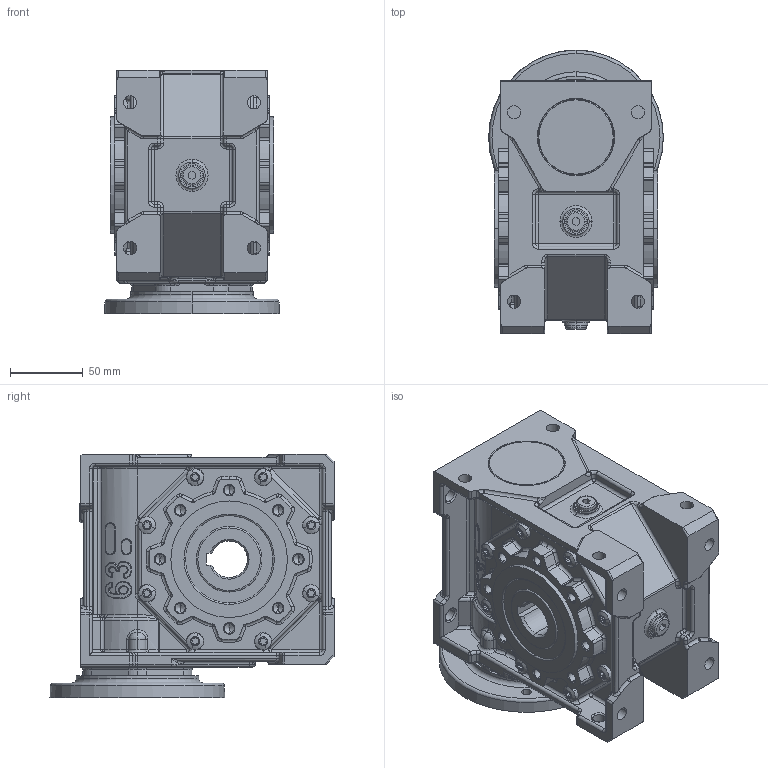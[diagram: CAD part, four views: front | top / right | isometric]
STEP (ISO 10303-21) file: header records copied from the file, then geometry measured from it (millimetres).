
FILE_DESCRIPTION (( 'STEP AP214' ), '1' );
FILE_NAME ('MKT63-FTRL-80-100.STEP', '2006-05-09T11:34:21', ( '' ), ( '' ), 'SwSTEP 2.0', 'SolidWorks 2004146', '' );
FILE_SCHEMA (( 'AUTOMOTIVE_DESIGN' ));
Length unit declared in the file: millimetre
Products named in the file (4): Skrin MKT63_MKT63 AP80; Pøíruba MRT80 kulatá _80-100-120; MKT63-FTRL-80-100; D6912_Šroub DIN 6912 - M6x25
Assembly tree (8 placements, depth 2):
  MKT63-FTRL-80-100
    D6912_Šroub DIN 6912 - M6x25  x6
    Skrin MKT63_MKT63 AP80
    Pøíruba MRT80 kulatá _80-100-120
Bounding box: 120 x 195 x 167 mm (x, y, z)
Volume: 2064265.2 mm3; surface area: 215014.2 mm2
Topology: 8 solids, 8 shells, 2027 faces, 4867 edges, 2834 vertices
Faces by surface type: cylinder 797, plane 368, torus 330, cone 220, bspline 182, sphere 130
Entity records: 181324 total; most frequent: CARTESIAN_POINT 134611, DIRECTION 9563, ORIENTED_EDGE 8824, EDGE_CURVE 4412, AXIS2_PLACEMENT_3D 4001, VERTEX_POINT 2659, CIRCLE 2330, EDGE_LOOP 1977
